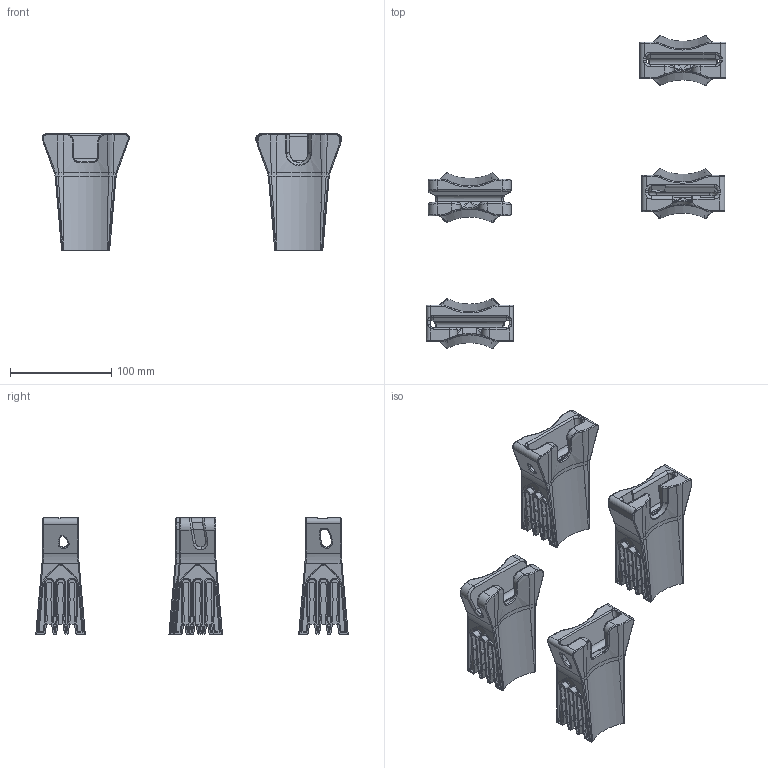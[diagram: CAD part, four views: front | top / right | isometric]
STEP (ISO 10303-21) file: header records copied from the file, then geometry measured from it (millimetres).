
FILE_DESCRIPTION(/* description */ (''),/* implementation_level */ '2;1');
FILE_NAME(/* name */ '/Volumes/Macintosh HD - Dati/Dati/paolo/Desktop/Auris_any_Phone_Stand.step',/* time_stamp */ '2021-08-07T17:05:53+02:00',/* author */ (''),/* organization */ (''),/* preprocessor_version */ 'ST-DEVELOPER v18.1',/* originating_system */ 'Autodesk Translation Framework v10.9.0.1377',/* authorisation */ '');
FILE_SCHEMA (('AUTOMOTIVE_DESIGN { 1 0 10303 214 3 1 1 }'));
Length unit declared in the file: millimetre
Products named in the file (1): Iphone_7_Auris_stand v20
Bounding box: 296.79 x 309.11 x 115 mm (x, y, z)
Volume: 540430 mm3; surface area: 178006.3 mm2
Topology: 4 solids, 4 shells, 1769 faces, 4570 edges, 2785 vertices
Faces by surface type: cylinder 698, plane 681, bspline 268, torus 82, sphere 40
Entity records: 67597 total; most frequent: CARTESIAN_POINT 25537, ORIENTED_EDGE 9084, DIRECTION 8433, EDGE_CURVE 4542, AXIS2_PLACEMENT_3D 2904, VERTEX_POINT 2785, LINE 2625, VECTOR 2625
